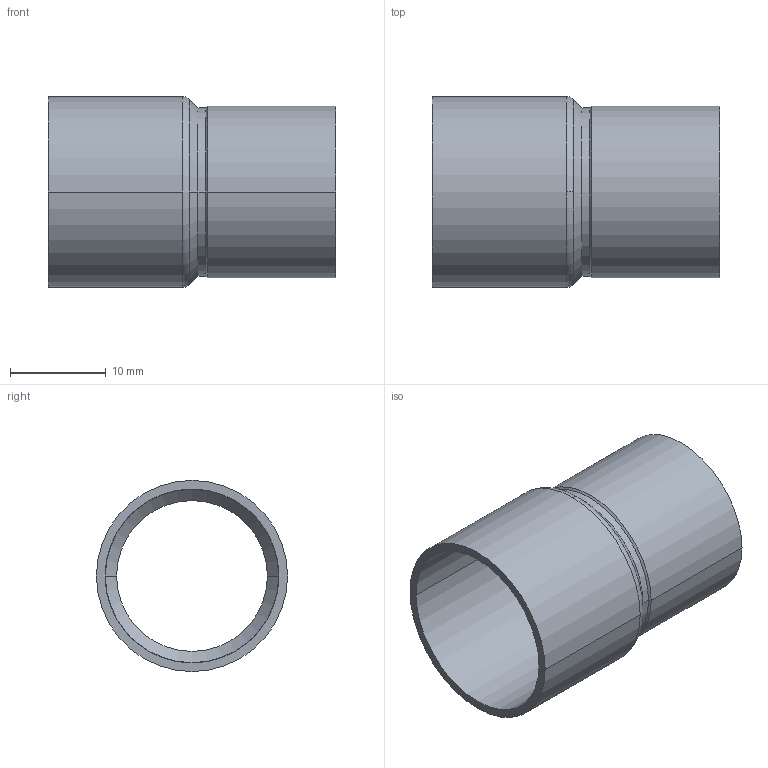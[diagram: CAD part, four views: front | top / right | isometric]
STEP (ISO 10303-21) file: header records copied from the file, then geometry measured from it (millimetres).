
FILE_DESCRIPTION((''),'2;1');
FILE_NAME('G:\Technics\CAD\Bauteile\Serie 15240\152401816.stp','2005-10-21T12:51:06',('boden'),(''),'Autodesk Inventor 8','Autodesk Inventor 8','');
FILE_SCHEMA(('AUTOMOTIVE_DESIGN { 1 0 10303 214 1 1 1 1 }'));
Length unit declared in the file: millimetre
Products named in the file (1): 152401816
Bounding box: 30 x 19.91 x 19.91 mm (x, y, z)
Volume: 1552.2 mm3; surface area: 3551.1 mm2
Topology: 1 solids, 1 shells, 26 faces, 60 edges, 36 vertices
Faces by surface type: cylinder 12, cone 8, torus 2, bspline 2, plane 2
Entity records: 855 total; most frequent: CARTESIAN_POINT 211, DIRECTION 150, ORIENTED_EDGE 120, AXIS2_PLACEMENT_3D 65, EDGE_CURVE 60, CIRCLE 40, VERTEX_POINT 36, EDGE_LOOP 28
